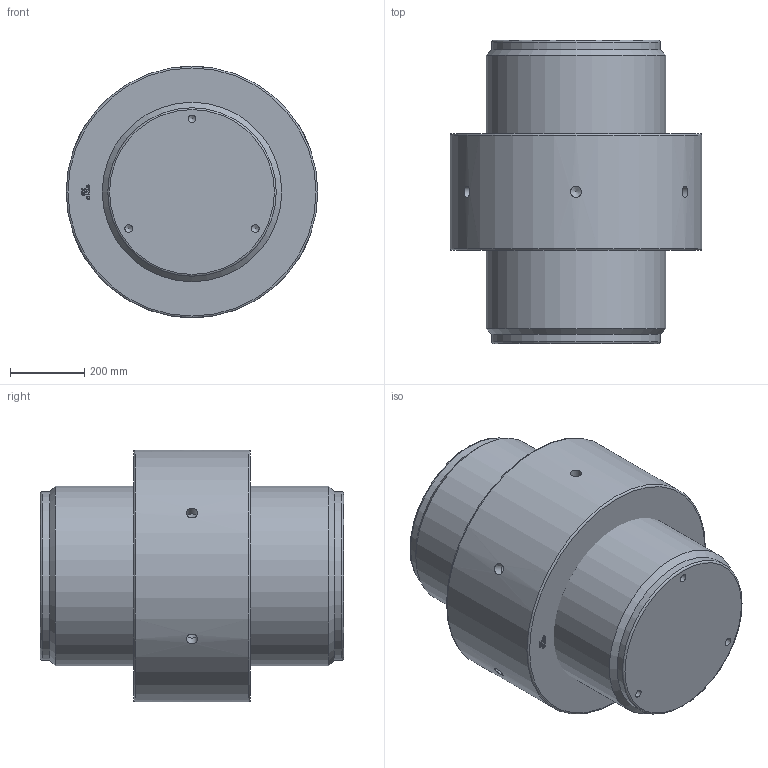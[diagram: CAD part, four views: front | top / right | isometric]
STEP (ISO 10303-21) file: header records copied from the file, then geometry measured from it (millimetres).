
FILE_DESCRIPTION(/* description */ (''),/* implementation_level */ '2;1');
FILE_NAME(/* name */ 'F:\Clienti LS\Redaelli\CYT\CYT\ARRNGEMENT\CYT156 61 061 0.stp',/* time_stamp */ '2021-05-09T09:01:55+02:00',/* author */ ('ranca'),/* organization */ (''),/* preprocessor_version */ 'ST-DEVELOPER v16.13',/* originating_system */ 'Autodesk Inventor 2018',/* authorisation */ '');
FILE_SCHEMA (('AUTOMOTIVE_DESIGN { 1 0 10303 214 3 1 1 }'));
Length unit declared in the file: millimetre
Products named in the file (3): CYT012-61-061-0; CYT012-61-061-0_1; CYT012-61-061-0_DADO
Assembly tree (2 placements, depth 2):
  CYT012-61-061-0
    CYT012-61-061-0_1
    CYT012-61-061-0_DADO
Bounding box: 680 x 819 x 680 mm (x, y, z)
Volume: 207373704.2 mm3; surface area: 3112605 mm2
Topology: 2 solids, 2 shells, 358 faces, 986 edges, 656 vertices
Faces by surface type: bspline 190, plane 139, cylinder 14, cone 11, torus 4
Full cylindrical faces by diameter (mm): 20.752 x3, 30 x6, 455 x2, 478.505 x1, 485 x1, 680 x1
Entity records: 12308 total; most frequent: CARTESIAN_POINT 4624, ORIENTED_EDGE 1882, EDGE_CURVE 941, DIRECTION 921, VERTEX_POINT 640, LINE 523, VECTOR 523, EDGE_LOOP 413
